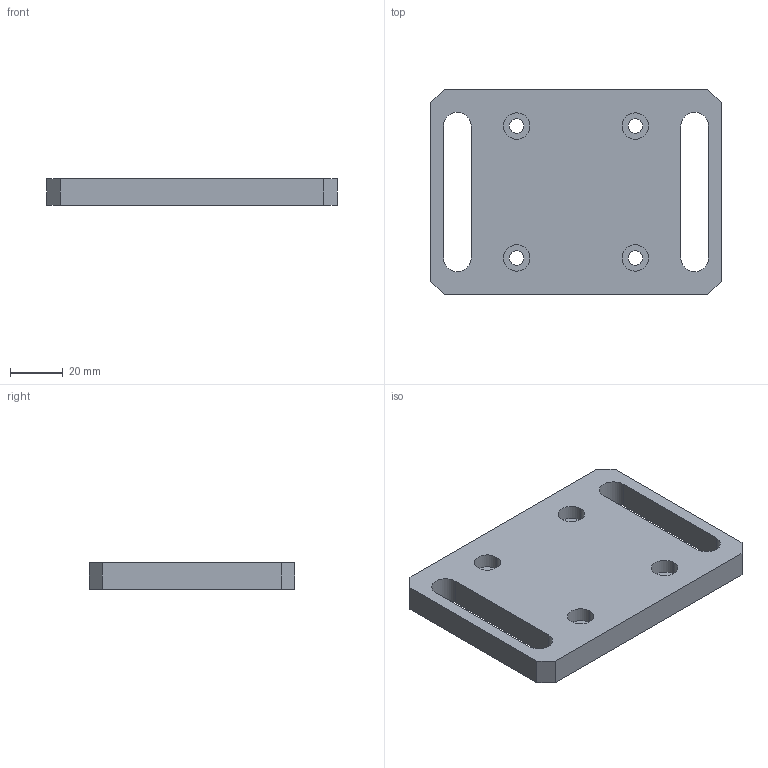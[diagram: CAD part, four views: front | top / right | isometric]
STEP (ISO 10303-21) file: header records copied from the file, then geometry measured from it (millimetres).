
FILE_DESCRIPTION(('CATIA V5 STEP Exchange'),'2;1');
FILE_NAME('D:\姚明阳\1、工装图纸\AGZ122\AGZ122.00_V2\AGZ122.01_V2.stp','2024-12-11T11:36:35+00:00',('none'),('none'),'CATIA Version 5 Release 20 GA (IN-10)','CATIA V5 STEP AP203','none');
FILE_SCHEMA(('CONFIG_CONTROL_DESIGN'));
Length unit declared in the file: millimetre
Products named in the file (1): AGZ122.01_V2
Bounding box: 110 x 78 x 10 mm (x, y, z)
Volume: 70912.7 mm3; surface area: 21728.3 mm2
Topology: 1 solids, 1 shells, 38 faces, 96 edges, 64 vertices
Faces by surface type: cylinder 20, plane 18
Entity records: 1131 total; most frequent: ORIENTED_EDGE 192, CARTESIAN_POINT 188, DIRECTION 150, EDGE_CURVE 96, AXIS2_PLACEMENT_3D 68, VERTEX_POINT 64, VECTOR 56, LINE 56
